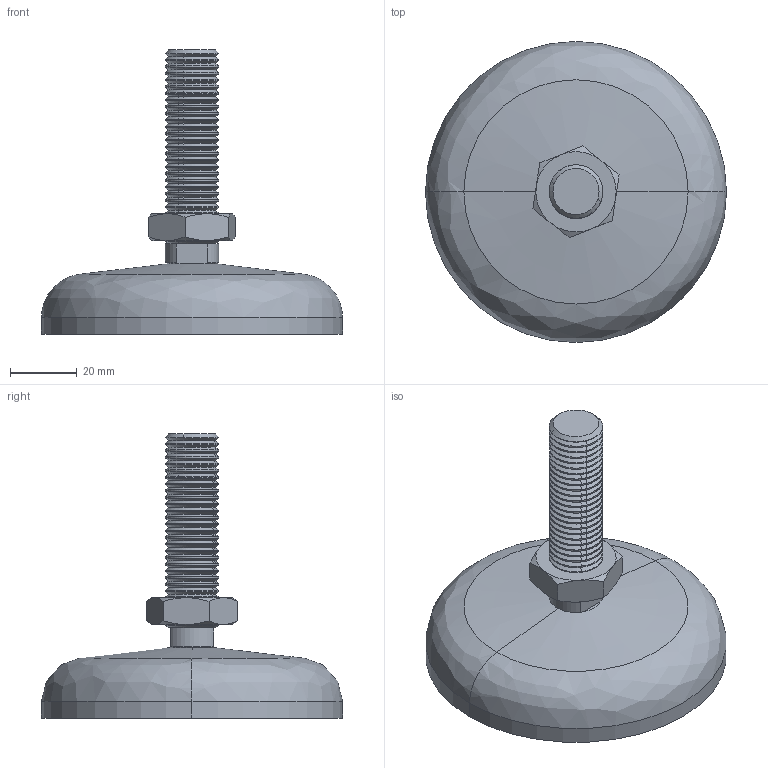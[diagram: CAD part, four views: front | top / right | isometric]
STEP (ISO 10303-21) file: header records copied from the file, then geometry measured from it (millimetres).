
FILE_DESCRIPTION (( 'STEP AP203' ), '1' );
FILE_NAME ('501014_Gelenkfuß Ø90 M16x85.step', '2022-06-28T07:38:41', ( '' ), ( '' ), 'SwSTEP 2.0', 'SolidWorks 2021', '' );
FILE_SCHEMA (( 'CONFIG_CONTROL_DESIGN' ));
Length unit declared in the file: millimetre
Products named in the file (1): 501014_Gelenkfuß Ø90 M16x85
Bounding box: 90 x 90 x 85 mm (x, y, z)
Volume: 63445.5 mm3; surface area: 28419.3 mm2
Topology: 4 solids, 5 shells, 365 faces, 917 edges, 563 vertices
Faces by surface type: cone 222, cylinder 115, plane 19, bspline 9
Entity records: 11307 total; most frequent: DIRECTION 2151, CARTESIAN_POINT 2135, ORIENTED_EDGE 1830, EDGE_CURVE 915, AXIS2_PLACEMENT_3D 907, VERTEX_POINT 563, CIRCLE 550, EDGE_LOOP 372
